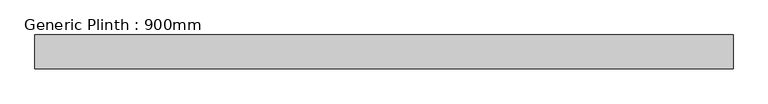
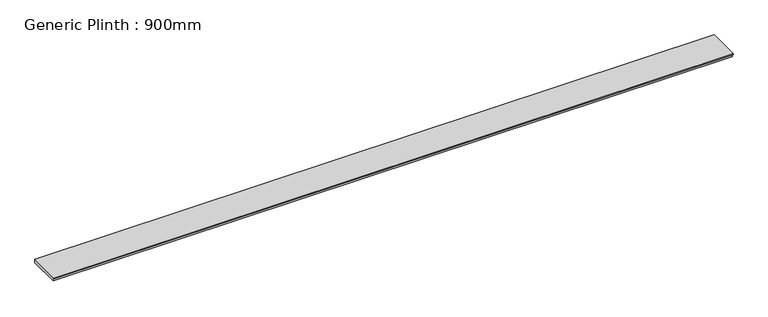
"""IFC4 building model written with IfcOpenShell, lengths in millimetres: furniture geometry, Generic Plinth : 900mm."""

import ifcopenshell
import ifcopenshell.guid

model = None  # the IFC model being written
_history = None  # IfcOwnerHistory: only IFC2X3 demands one
_inside = {}  # id of a spatial element -> (the spatial element, [elements in it])
_under = {}  # id of a project, library or spatial element -> (it, [spatial elements below it])
_declared = {}  # id of a project -> (the project, [libraries it declares])
_typed = {}  # id of a type object -> (the type object, [elements of that type])
_made_of = {}  # id of a material, layer set ... -> (it, [elements and type objects made of it])


def new_model(schema):
    """Start an empty IFC model of exactly this schema.

    Asked for "IFC4X3", IfcOpenShell would pick the latest addendum, in which some entities
    have other attributes; the version numbers below select the first issue.
    IFC2X3 requires an IfcOwnerHistory on every rooted entity: one is made here for all.
    """
    global model, _history
    if schema == "IFC4X3":
        model = ifcopenshell.file(schema_version=(4, 3, 0, 0))
    else:
        model = ifcopenshell.file(schema=schema)
    _inside.clear()
    _under.clear()
    _declared.clear()
    _typed.clear()
    _made_of.clear()
    _history = None
    if model.schema == "IFC2X3":
        org = make("IfcOrganization", Name="unknown")
        user = make(
            "IfcPersonAndOrganization",
            ThePerson=make("IfcPerson", FamilyName="unknown"),
            TheOrganization=org,
        )
        app = make(
            "IfcApplication",
            ApplicationDeveloper=org,
            Version="unknown",
            ApplicationFullName="unknown",
            ApplicationIdentifier="unknown",
        )
        _history = make(
            "IfcOwnerHistory",
            OwningUser=user,
            OwningApplication=app,
            ChangeAction="ADDED",
            CreationDate=0,
        )
    return model


def make(cls, **values):
    """One entity of the class cls with the attributes given. An attribute that is None is left unset."""
    return model.create_entity(
        cls, **{name: value for name, value in values.items() if value is not None}
    )


def rooted(cls, **values):
    """An entity with a GlobalId (a new one), such as an element, a storey or a relation."""
    return make(cls, GlobalId=ifcopenshell.guid.new(), OwnerHistory=_history, **values)


def si_unit(unit_type, name, prefix=None):
    """IfcSIUnit, for example si_unit("LENGTHUNIT", "METRE", prefix="MILLI")."""
    return make("IfcSIUnit", UnitType=unit_type, Prefix=prefix, Name=name)


def assignment(units):
    """IfcUnitAssignment: the units of a project."""
    return None if units is None else make("IfcUnitAssignment", Units=units)


def point(xyz):
    """IfcCartesianPoint."""
    return None if xyz is None else make("IfcCartesianPoint", Coordinates=xyz)


def direction(xyz):
    """IfcDirection."""
    return None if xyz is None else make("IfcDirection", DirectionRatios=xyz)


def frame(location, z_axis=None, x_axis=None):
    """IfcAxis2Placement3D, a coordinate frame: its origin and axes. An axis left out is left unset."""
    return make(
        "IfcAxis2Placement3D",
        Location=point(location),
        Axis=direction(z_axis),
        RefDirection=direction(x_axis),
    )


def origin():
    """The frame at (0, 0, 0) with its axes left unset."""
    return frame((0.0, 0.0, 0.0))


def place(relative_to, where):
    """IfcLocalPlacement: puts the frame where relative to a parent placement (None: the world)."""
    return make(
        "IfcLocalPlacement", PlacementRelTo=relative_to, RelativePlacement=where
    )


def context(
    kind, dimensions, precision=None, world=None, true_north=None, identifier=None
):
    """IfcGeometricRepresentationContext, for example the 3D "Model" context."""
    return make(
        "IfcGeometricRepresentationContext",
        ContextIdentifier=identifier,
        ContextType=kind,
        CoordinateSpaceDimension=dimensions,
        Precision=precision,
        WorldCoordinateSystem=world,
        TrueNorth=true_north,
    )


def project(units=None, contexts=None):
    """IfcProject with its units and contexts."""
    return rooted(
        "IfcProject",
        Name="project",
        RepresentationContexts=contexts,
        UnitsInContext=assignment(units),
    )


def spatial(cls, under=None, at=None, **own):
    """A site, building, storey or space (cls), placed at a placement, below another one or the project."""
    s = rooted(cls, ObjectPlacement=at, **own)
    if under is not None:
        _under.setdefault(under.id(), (under, []))[1].append(s)
    return s


def polyline(points):
    """IfcPolyline through the points."""
    return make("IfcPolyline", Points=[point(p) for p in points])


def outline(outer, holes=None, kind="AREA"):
    """IfcArbitraryClosedProfileDef: a profile drawn as a closed curve; with holes, ...WithVoids."""
    if holes is None:
        return make("IfcArbitraryClosedProfileDef", ProfileType=kind, OuterCurve=outer)
    return make(
        "IfcArbitraryProfileDefWithVoids",
        ProfileType=kind,
        OuterCurve=outer,
        InnerCurves=holes,
    )


def extrude(swept, where, along, depth):
    """IfcExtrudedAreaSolid: the profile swept, set in the frame where, extruded along a direction by depth."""
    return make(
        "IfcExtrudedAreaSolid",
        SweptArea=swept,
        Position=where,
        ExtrudedDirection=direction(along),
        Depth=depth,
    )


def shape(context_of_items, identifier, shape_type, items):
    """IfcShapeRepresentation: the items that make up one representation, for example the "Body"."""
    return make(
        "IfcShapeRepresentation",
        ContextOfItems=context_of_items,
        RepresentationIdentifier=identifier,
        RepresentationType=shape_type,
        Items=items,
    )


def source(mapping_origin, context_of_items, identifier, shape_type, items):
    """IfcRepresentationMap: a shape defined once, which mapped items show again and again."""
    return make(
        "IfcRepresentationMap",
        MappingOrigin=mapping_origin,
        MappedRepresentation=shape(context_of_items, identifier, shape_type, items),
    )


def transform(
    local_origin,
    x_axis=None,
    y_axis=None,
    z_axis=None,
    scale=None,
    scale2=None,
    scale3=None,
    uniform=True,
):
    """IfcCartesianTransformationOperator3D, or its non-uniform kind. x_axis, y_axis, z_axis: its Axis1, 2, 3."""
    if uniform:
        return make(
            "IfcCartesianTransformationOperator3D",
            Axis1=direction(x_axis),
            Axis2=direction(y_axis),
            LocalOrigin=point(local_origin),
            Scale=scale,
            Axis3=direction(z_axis),
        )
    return make(
        "IfcCartesianTransformationOperator3DnonUniform",
        Axis1=direction(x_axis),
        Axis2=direction(y_axis),
        LocalOrigin=point(local_origin),
        Scale=scale,
        Axis3=direction(z_axis),
        Scale2=scale2,
        Scale3=scale3,
    )


def mapped(mapping_source, mapping_target):
    """IfcMappedItem: shows the shape of a source again, moved by a transform."""
    return make(
        "IfcMappedItem", MappingSource=mapping_source, MappingTarget=mapping_target
    )


def made_of(thing, what):
    """Note that an element or type object is made of a material, layer set ...; save() writes the relation."""
    if what is not None:
        _made_of.setdefault(what.id(), (what, []))[1].append(thing)
    return thing


def element(
    cls,
    number,
    at=None,
    inside=None,
    cuts=None,
    type_object=None,
    material=None,
    context=None,
    identifier="Body",
    shape_type=None,
    held_by="IfcProductDefinitionShape",
    body=None,
    shapes=None,
    **own,
):
    """One element of the class cls, such as IfcWall. Its Tag is "e" and its number.

    at: its placement. inside: the storey or other place that contains it. cuts: it is an
    opening in that element (IfcRelVoidsElement). A single representation is given by context,
    identifier, shape_type and body (its items); several are given by shapes. held_by: the class
    of the entity that holds the representations. save() writes the other relations.
    """
    e = rooted(cls, Tag="e%d" % number, ObjectPlacement=at, **own)
    if body is not None:
        shapes = [shape(context, identifier, shape_type, body)]
    if shapes is not None:
        e.Representation = make(held_by, Representations=shapes)
    if inside is not None:
        _inside.setdefault(inside.id(), (inside, []))[1].append(e)
    if cuts is not None:
        rooted(
            "IfcRelVoidsElement", RelatingBuildingElement=cuts, RelatedOpeningElement=e
        )
    if type_object is not None:
        _typed.setdefault(type_object.id(), (type_object, []))[1].append(e)
    return made_of(e, material)


def aggregate(whole, parts):
    """IfcRelAggregates: a whole, such as a stair, and the parts it consists of."""
    return rooted("IfcRelAggregates", RelatingObject=whole, RelatedObjects=parts)


def save(model, path):
    """Write the relations noted so far, then the file.

    IfcRelAggregates (storeys below a building ...), IfcRelContainedInSpatialStructure (elements
    in a storey), IfcRelDefinesByType, IfcRelAssociatesMaterial and IfcRelDeclares: one each for
    every whole, place, type object, material and project.
    """
    for whole, parts in _under.values():
        aggregate(whole, parts)
    for where, things in _inside.values():
        rooted(
            "IfcRelContainedInSpatialStructure",
            RelatedElements=things,
            RelatingStructure=where,
        )
    for kind, things in _typed.values():
        rooted("IfcRelDefinesByType", RelatedObjects=things, RelatingType=kind)
    for what, things in _made_of.values():
        rooted("IfcRelAssociatesMaterial", RelatedObjects=things, RelatingMaterial=what)
    for by, libraries in _declared.values():
        rooted("IfcRelDeclares", RelatingContext=by, RelatedDefinitions=libraries)
    model.write(path)


def generic_plinth_900mm_f287d53f(model_context):
    return source(origin(), model_context, "Body", "SweptSolid", [
        extrude(outline(polyline([(-900.0, 81.0), (-900.0, 100.0), (0.0, 100.0), (0.0, 0.0), (-865.0, 0.0), (-865.0, 81.0), (-900.0, 81.0)])), frame((-9231.2622951, 0.0, 0.0), z_axis=(1.0, 0.0, 0.0), x_axis=(0.0, 1.0, 0.0)), (0.0, 0.0, 1.0), 18500.0),
    ])


if __name__ == "__main__":
    model = new_model("IFC4")
    model_context = context("Model", 3, world=origin())
    ifc_project = project(units=[si_unit("LENGTHUNIT", "METRE", prefix="MILLI")], contexts=[model_context])
    site = spatial("IfcSite", under=ifc_project)
    building = spatial("IfcBuilding", under=site)
    placement = place(None, origin())
    generic_plinth_900mm_shape = generic_plinth_900mm_f287d53f(model_context)
    element("IfcFurniture", 1, ObjectType="Generic Plinth : 900mm", at=placement, inside=building, context=model_context, shape_type="MappedRepresentation", body=[
        mapped(generic_plinth_900mm_shape, transform((0.0, 0.0, 0.0), x_axis=(1.0, 0.0, 0.0), y_axis=(0.0, 1.0, 0.0), z_axis=(0.0, 0.0, 1.0))),
    ])
    save(model, "model.ifc")
